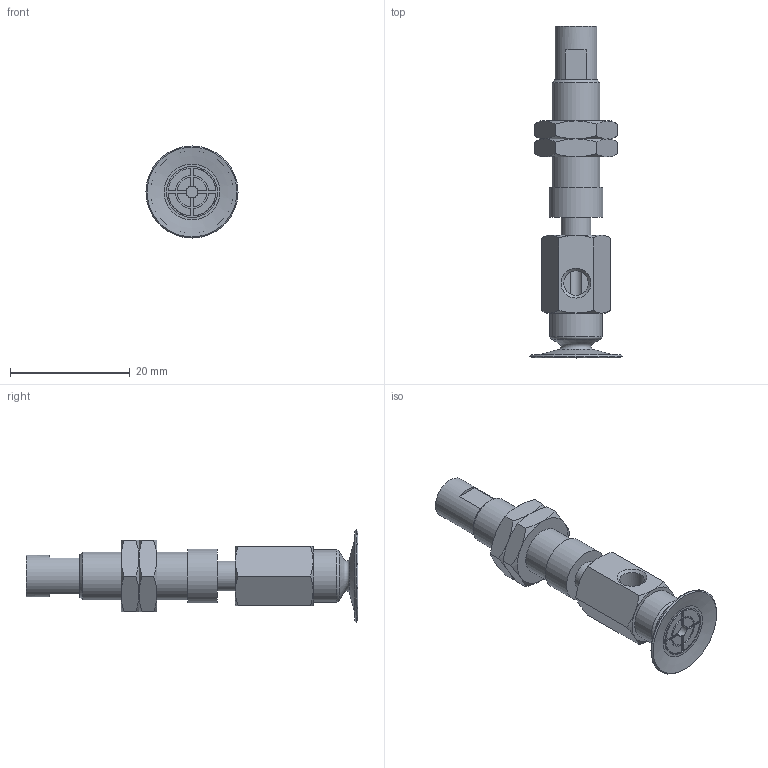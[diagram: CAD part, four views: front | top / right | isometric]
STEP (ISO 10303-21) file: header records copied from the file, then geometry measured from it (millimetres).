
FILE_DESCRIPTION(('STEP AP203'),'1');
FILE_NAME('.stp','2025-02-14T00:52:05',(' '),(' '),'Spatial InterOp 3D',' ',' ');
FILE_SCHEMA(('CONFIG_CONTROL_DESIGN'));
Length unit declared in the file: millimetre
Products named in the file (6): BNABPAYS-15B-3-※; NAPAYS-10A-3--M; NAPAYS-10A-3--F; Nut-10A-S; CONNECTOR-10A-3-PA; BPAG-15B-※_3D
Assembly tree (6 placements, depth 2):
  BNABPAYS-15B-3-※
    NAPAYS-10A-3--M
    NAPAYS-10A-3--F
    Nut-10A-S  x2
    CONNECTOR-10A-3-PA
    BPAG-15B-※_3D
Bounding box: 15.4 x 55.5 x 15.4 mm (x, y, z)
Volume: 3406.5 mm3; surface area: 4277.4 mm2
Topology: 6 solids, 6 shells, 171 faces, 380 edges, 230 vertices
Faces by surface type: plane 71, cone 60, cylinder 30, torus 10
Full cylindrical faces by diameter (mm): 2 x2, 4 x2, 4.134 x2, 5 x3, 6 x2, 7 x1, 7.188 x2, 8 x1, 8.5 x1, 8.7 x1, 9 x1
Entity records: 4392 total; most frequent: CARTESIAN_POINT 1056, DIRECTION 636, ORIENTED_EDGE 564, EDGE_CURVE 282, AXIS2_PLACEMENT_3D 268, EDGE_LOOP 206, VERTEX_POINT 192, FACE_OUTER_BOUND 175
